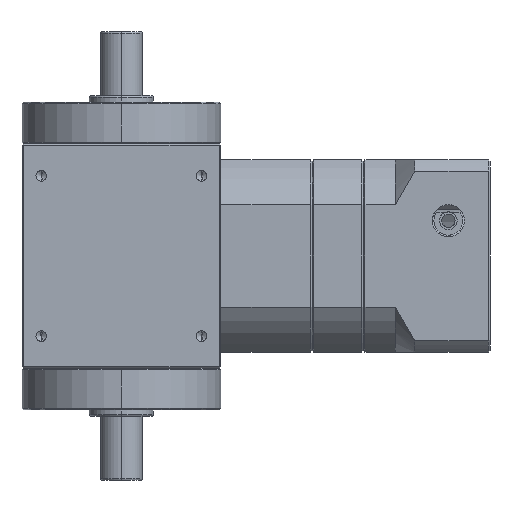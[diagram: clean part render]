
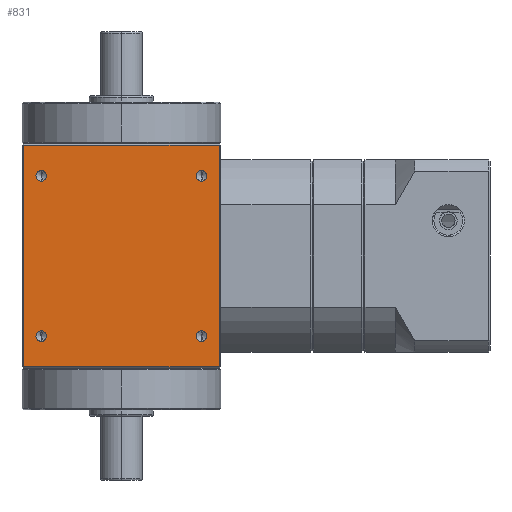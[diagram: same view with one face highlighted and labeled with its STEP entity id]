
A CAD part, left-side view. The second image highlights one B-rep face of the part: STEP entity #831.
In plain terms, the highlighted planar face has unit normal (-1, 0, 0).
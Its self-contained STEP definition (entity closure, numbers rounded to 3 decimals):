
#165 = DIRECTION ( 'NONE',  ( 1., 0., 0. ) ) ;
#167 = PLANE ( 'NONE',  #5785 ) ;
#169 = CARTESIAN_POINT ( 'NONE',  ( -31., -31., 35. ) ) ;
#171 = DIRECTION ( 'NONE',  ( 0., 0., -1. ) ) ;
#754 = AXIS2_PLACEMENT_3D ( 'NONE', #1517, #1518, #1519 ) ;
#758 = AXIS2_PLACEMENT_3D ( 'NONE', #1535, #1536, #1537 ) ;
#766 = AXIS2_PLACEMENT_3D ( 'NONE', #8628, #8629, #8630 ) ;
#831 = ADVANCED_FACE ( 'NONE', ( #6305, #6313, #6309, #6307, #6311 ), #167, .F. ) ;
#952 = AXIS2_PLACEMENT_3D ( 'NONE', #2892, #2893, #2894 ) ;
#973 = AXIS2_PLACEMENT_3D ( 'NONE', #3126, #3127, #3128 ) ;
#974 = AXIS2_PLACEMENT_3D ( 'NONE', #3129, #3130, #3131 ) ;
#975 = AXIS2_PLACEMENT_3D ( 'NONE', #3134, #3135, #3136 ) ;
#976 = AXIS2_PLACEMENT_3D ( 'NONE', #3139, #3140, #3141 ) ;
#1454 = CARTESIAN_POINT ( 'NONE',  ( -31., -25., -23.35 ) ) ;
#1455 = CARTESIAN_POINT ( 'NONE',  ( -31., -25., -26.65 ) ) ;
#1458 = CARTESIAN_POINT ( 'NONE',  ( -31., -25., 26.65 ) ) ;
#1459 = CARTESIAN_POINT ( 'NONE',  ( -31., -25., 23.35 ) ) ;
#1517 = CARTESIAN_POINT ( 'NONE',  ( -31., -25., 25. ) ) ;
#1518 = DIRECTION ( 'NONE',  ( -1., 0., 0. ) ) ;
#1519 = DIRECTION ( 'NONE',  ( 0., 0., 1. ) ) ;
#1535 = CARTESIAN_POINT ( 'NONE',  ( -31., 25., 25. ) ) ;
#1536 = DIRECTION ( 'NONE',  ( -1., 0., 0. ) ) ;
#1537 = DIRECTION ( 'NONE',  ( 0., 0., 1. ) ) ;
#1711 = CIRCLE ( 'NONE', #754, 1.65 ) ;
#1726 = CIRCLE ( 'NONE', #758, 1.65 ) ;
#1737 = CIRCLE ( 'NONE', #766, 1.65 ) ;
#2080 = CIRCLE ( 'NONE', #952, 1.65 ) ;
#2138 = CIRCLE ( 'NONE', #973, 1.65 ) ;
#2139 = CIRCLE ( 'NONE', #974, 1.65 ) ;
#2140 = CIRCLE ( 'NONE', #975, 1.65 ) ;
#2892 = CARTESIAN_POINT ( 'NONE',  ( -31., 25., -25. ) ) ;
#2893 = DIRECTION ( 'NONE',  ( -1., 0., 0. ) ) ;
#2894 = DIRECTION ( 'NONE',  ( 0., 0., 1. ) ) ;
#3026 = CARTESIAN_POINT ( 'NONE',  ( -31., 25., 23.35 ) ) ;
#3030 = CARTESIAN_POINT ( 'NONE',  ( -31., 25., 26.65 ) ) ;
#3039 = CARTESIAN_POINT ( 'NONE',  ( -31., 25., -23.35 ) ) ;
#3042 = CARTESIAN_POINT ( 'NONE',  ( -31., 25., -26.65 ) ) ;
#3126 = CARTESIAN_POINT ( 'NONE',  ( -31., 25., -25. ) ) ;
#3127 = DIRECTION ( 'NONE',  ( -1., 0., 0. ) ) ;
#3128 = DIRECTION ( 'NONE',  ( 0., 0., 1. ) ) ;
#3129 = CARTESIAN_POINT ( 'NONE',  ( -31., 25., 25. ) ) ;
#3130 = DIRECTION ( 'NONE',  ( -1., 0., 0. ) ) ;
#3131 = DIRECTION ( 'NONE',  ( 0., 0., 1. ) ) ;
#3132 = CARTESIAN_POINT ( 'NONE',  ( -31., -31., -34.5 ) ) ;
#3133 = DIRECTION ( 'NONE',  ( 0., -1., 0. ) ) ;
#3134 = CARTESIAN_POINT ( 'NONE',  ( -31., -25., 25. ) ) ;
#3135 = DIRECTION ( 'NONE',  ( -1., 0., 0. ) ) ;
#3136 = DIRECTION ( 'NONE',  ( 0., 0., 1. ) ) ;
#3138 = CARTESIAN_POINT ( 'NONE',  ( -31., -30.5, 35. ) ) ;
#3139 = CARTESIAN_POINT ( 'NONE',  ( -31., -25., -25. ) ) ;
#3140 = DIRECTION ( 'NONE',  ( -1., 0., 0. ) ) ;
#3141 = DIRECTION ( 'NONE',  ( 0., 0., 1. ) ) ;
#3142 = DIRECTION ( 'NONE',  ( 0., 0., 1. ) ) ;
#3143 = CARTESIAN_POINT ( 'NONE',  ( -31., 31., 34.5 ) ) ;
#3144 = DIRECTION ( 'NONE',  ( 0., 1., 0. ) ) ;
#3145 = CARTESIAN_POINT ( 'NONE',  ( -31., 30.5, 35. ) ) ;
#3146 = DIRECTION ( 'NONE',  ( 0., 0., -1. ) ) ;
#3350 = EDGE_LOOP ( 'NONE', ( #6729, #6728 ) ) ;
#3437 = EDGE_LOOP ( 'NONE', ( #6725, #6724 ) ) ;
#3864 = CIRCLE ( 'NONE', #976, 1.65 ) ;
#3866 = LINE ( 'NONE', #3132, #3867 ) ;
#3867 = VECTOR ( 'NONE', #3133, 1000. ) ;
#3868 = LINE ( 'NONE', #3143, #3872 ) ;
#3869 = LINE ( 'NONE', #3138, #3870 ) ;
#3870 = VECTOR ( 'NONE', #3142, 1000. ) ;
#3871 = LINE ( 'NONE', #3145, #3874 ) ;
#3872 = VECTOR ( 'NONE', #3144, 1000. ) ;
#3874 = VECTOR ( 'NONE', #3146, 1000. ) ;
#4783 = CARTESIAN_POINT ( 'NONE',  ( -31., 30.5, 34.5 ) ) ;
#4784 = CARTESIAN_POINT ( 'NONE',  ( -31., -30.5, 34.5 ) ) ;
#4786 = CARTESIAN_POINT ( 'NONE',  ( -31., 30.5, -34.5 ) ) ;
#4789 = CARTESIAN_POINT ( 'NONE',  ( -31., -30.5, -34.5 ) ) ;
#5785 = AXIS2_PLACEMENT_3D ( 'NONE', #169, #165, #171 ) ;
#6305 = FACE_BOUND ( 'NONE', #7846, .T. ) ;
#6307 = FACE_BOUND ( 'NONE', #3437, .T. ) ;
#6309 = FACE_BOUND ( 'NONE', #7832, .T. ) ;
#6311 = FACE_OUTER_BOUND ( 'NONE', #7869, .T. ) ;
#6313 = FACE_BOUND ( 'NONE', #3350, .T. ) ;
#6591 = VERTEX_POINT ( 'NONE', #1454 ) ;
#6592 = VERTEX_POINT ( 'NONE', #1455 ) ;
#6595 = VERTEX_POINT ( 'NONE', #1458 ) ;
#6596 = VERTEX_POINT ( 'NONE', #1459 ) ;
#6720 = ORIENTED_EDGE ( 'NONE', *, *, #7380, .T. ) ;
#6721 = ORIENTED_EDGE ( 'NONE', *, *, #7379, .T. ) ;
#6722 = ORIENTED_EDGE ( 'NONE', *, *, #7378, .T. ) ;
#6723 = ORIENTED_EDGE ( 'NONE', *, *, #7377, .T. ) ;
#6724 = ORIENTED_EDGE ( 'NONE', *, *, #6856, .F. ) ;
#6725 = ORIENTED_EDGE ( 'NONE', *, *, #7376, .F. ) ;
#6726 = ORIENTED_EDGE ( 'NONE', *, *, #6839, .F. ) ;
#6727 = ORIENTED_EDGE ( 'NONE', *, *, #7375, .F. ) ;
#6728 = ORIENTED_EDGE ( 'NONE', *, *, #6848, .F. ) ;
#6729 = ORIENTED_EDGE ( 'NONE', *, *, #7374, .F. ) ;
#6730 = ORIENTED_EDGE ( 'NONE', *, *, #7131, .F. ) ;
#6731 = ORIENTED_EDGE ( 'NONE', *, *, #7373, .F. ) ;
#6839 = EDGE_CURVE ( 'NONE', #6596, #6595, #1711, .T. ) ;
#6848 = EDGE_CURVE ( 'NONE', #7193, #7190, #1726, .T. ) ;
#6856 = EDGE_CURVE ( 'NONE', #6592, #6591, #1737, .T. ) ;
#7131 = EDGE_CURVE ( 'NONE', #7204, #7201, #2080, .T. ) ;
#7190 = VERTEX_POINT ( 'NONE', #3030 ) ;
#7193 = VERTEX_POINT ( 'NONE', #3026 ) ;
#7201 = VERTEX_POINT ( 'NONE', #3039 ) ;
#7204 = VERTEX_POINT ( 'NONE', #3042 ) ;
#7373 = EDGE_CURVE ( 'NONE', #7201, #7204, #2138, .T. ) ;
#7374 = EDGE_CURVE ( 'NONE', #7190, #7193, #2139, .T. ) ;
#7375 = EDGE_CURVE ( 'NONE', #6595, #6596, #2140, .T. ) ;
#7376 = EDGE_CURVE ( 'NONE', #6591, #6592, #3864, .T. ) ;
#7377 = EDGE_CURVE ( 'NONE', #8558, #8561, #3866, .T. ) ;
#7378 = EDGE_CURVE ( 'NONE', #8561, #8556, #3869, .T. ) ;
#7379 = EDGE_CURVE ( 'NONE', #8556, #8555, #3868, .T. ) ;
#7380 = EDGE_CURVE ( 'NONE', #8555, #8558, #3871, .T. ) ;
#7832 = EDGE_LOOP ( 'NONE', ( #6727, #6726 ) ) ;
#7846 = EDGE_LOOP ( 'NONE', ( #6731, #6730 ) ) ;
#7869 = EDGE_LOOP ( 'NONE', ( #6723, #6722, #6721, #6720 ) ) ;
#8555 = VERTEX_POINT ( 'NONE', #4783 ) ;
#8556 = VERTEX_POINT ( 'NONE', #4784 ) ;
#8558 = VERTEX_POINT ( 'NONE', #4786 ) ;
#8561 = VERTEX_POINT ( 'NONE', #4789 ) ;
#8628 = CARTESIAN_POINT ( 'NONE',  ( -31., -25., -25. ) ) ;
#8629 = DIRECTION ( 'NONE',  ( -1., 0., 0. ) ) ;
#8630 = DIRECTION ( 'NONE',  ( 0., 0., 1. ) ) ;
